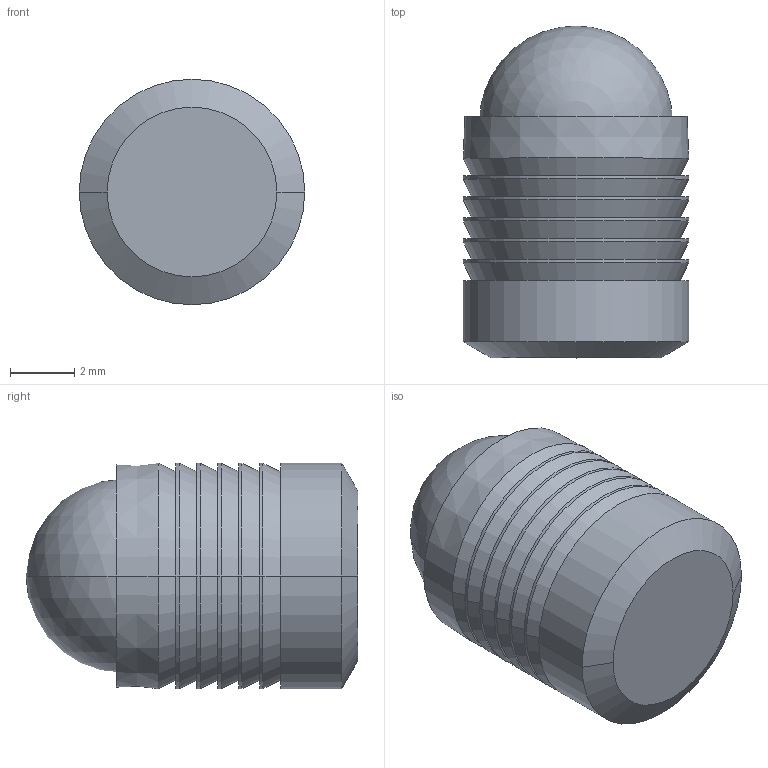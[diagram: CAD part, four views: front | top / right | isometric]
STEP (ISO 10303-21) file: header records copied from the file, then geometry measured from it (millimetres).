
FILE_DESCRIPTION (( 'STEP AP203' ), '1' );
FILE_NAME ('HC070.STEP', '2023-03-06T07:18:34', ( '' ), ( '' ), 'SwSTEP 2.0', 'SolidWorks 2013', '' );
FILE_SCHEMA (( 'CONFIG_CONTROL_DESIGN' ));
Length unit declared in the file: millimetre
Products named in the file (1): HC070
Bounding box: 7 x 10.3 x 7 mm (x, y, z)
Volume: 241.6 mm3; surface area: 480.7 mm2
Topology: 2 solids, 2 shells, 46 faces, 95 edges, 56 vertices
Faces by surface type: cone 20, cylinder 16, plane 8, sphere 2
Entity records: 1243 total; most frequent: DIRECTION 234, CARTESIAN_POINT 188, ORIENTED_EDGE 176, AXIS2_PLACEMENT_3D 99, EDGE_CURVE 88, EDGE_LOOP 53, VERTEX_POINT 53, CIRCLE 52
